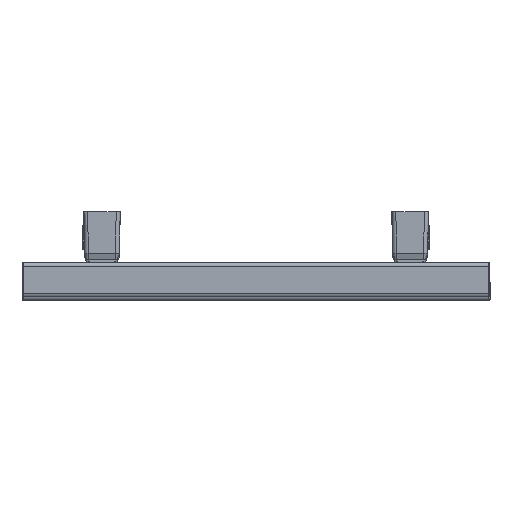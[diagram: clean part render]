
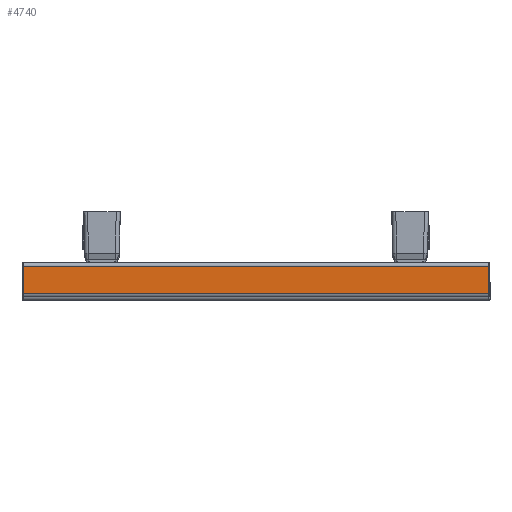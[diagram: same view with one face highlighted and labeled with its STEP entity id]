
A CAD part, top view. The second image highlights one B-rep face of the part: STEP entity #4740.
In plain terms, the highlighted planar face has unit normal (0, 0, 1).
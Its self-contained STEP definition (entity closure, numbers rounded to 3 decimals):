
#4035=CARTESIAN_POINT('',(-204.,-12.,1700.));
#4036=VERTEX_POINT('',#4035);
#4103=CARTESIAN_POINT('',(-204.,12.,1700.));
#4104=VERTEX_POINT('',#4103);
#4121=CARTESIAN_POINT('',(-204.,-12.,1700.));
#4122=DIRECTION('',(0.0,1.0,0.0));
#4123=VECTOR('',#4122,24.);
#4124=LINE('',#4121,#4123);
#4125=EDGE_CURVE('',#4036,#4104,#4124,.T.);
#4275=CARTESIAN_POINT('',(204.0,12.,1700.));
#4276=VERTEX_POINT('',#4275);
#4284=CARTESIAN_POINT('',(204.,-12.,1700.));
#4285=VERTEX_POINT('',#4284);
#4286=CARTESIAN_POINT('',(204.,12.,1700.));
#4287=DIRECTION('',(0.0,-1.0,0.0));
#4288=VECTOR('',#4287,24.);
#4289=LINE('',#4286,#4288);
#4290=EDGE_CURVE('',#4276,#4285,#4289,.T.);
#4712=CARTESIAN_POINT('',(204.,-12.,1700.));
#4713=DIRECTION('',(-1.0,0.0,0.0));
#4714=VECTOR('',#4713,408.);
#4715=LINE('',#4712,#4714);
#4716=EDGE_CURVE('',#4285,#4036,#4715,.T.);
#4724=CARTESIAN_POINT('',(0.,-12.,1700.));
#4725=DIRECTION('',(0.0,0.0,1.0));
#4726=DIRECTION('',(-1.0,0.0,0.0));
#4727=AXIS2_PLACEMENT_3D('',#4724,#4725,#4726);
#4728=PLANE('',#4727);
#4729=CARTESIAN_POINT('',(204.,12.,1700.));
#4730=DIRECTION('',(-1.0,0.0,0.0));
#4731=VECTOR('',#4730,408.);
#4732=LINE('',#4729,#4731);
#4733=EDGE_CURVE('',#4276,#4104,#4732,.T.);
#4734=ORIENTED_EDGE('',*,*,#4733,.T.);
#4735=ORIENTED_EDGE('',*,*,#4125,.F.);
#4736=ORIENTED_EDGE('',*,*,#4716,.F.);
#4737=ORIENTED_EDGE('',*,*,#4290,.F.);
#4738=EDGE_LOOP('',(#4734,#4735,#4736,#4737));
#4739=FACE_OUTER_BOUND('',#4738,.T.);
#4740=ADVANCED_FACE('',(#4739),#4728,.T.);
